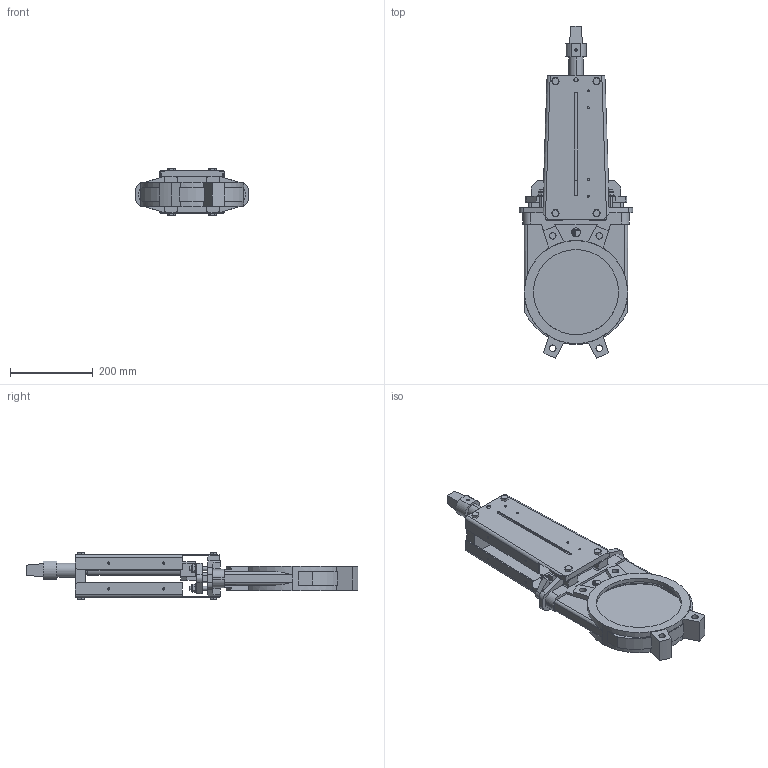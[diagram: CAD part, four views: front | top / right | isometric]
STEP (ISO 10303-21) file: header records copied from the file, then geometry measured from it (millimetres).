
FILE_DESCRIPTION (( 'STEP AP203' ), '1' );
FILE_NAME ('VG S N DN200.STEP', '2010-05-04T07:07:21', ( 'farex' ), ( '' ), 'SwSTEP 2.0', 'SolidWorks 2009', '' );
FILE_SCHEMA (( 'CONFIG_CONTROL_DESIGN' ));
Length unit declared in the file: millimetre
Products named in the file (1): VG S N DN200
Bounding box: 275 x 804.7 x 115.8 mm (x, y, z)
Volume: 3954529.6 mm3; surface area: 723996 mm2
Topology: 2 solids, 8 shells, 715 faces, 1877 edges, 1224 vertices
Faces by surface type: plane 384, cylinder 199, cone 77, bspline 43, torus 12
Entity records: 25249 total; most frequent: CARTESIAN_POINT 7639, ORIENTED_EDGE 3754, DIRECTION 3472, EDGE_CURVE 1877, VERTEX_POINT 1224, AXIS2_PLACEMENT_3D 1185, VECTOR 1102, LINE 1102
